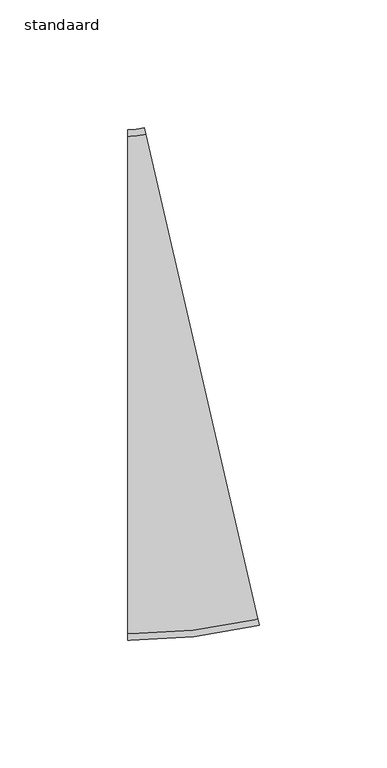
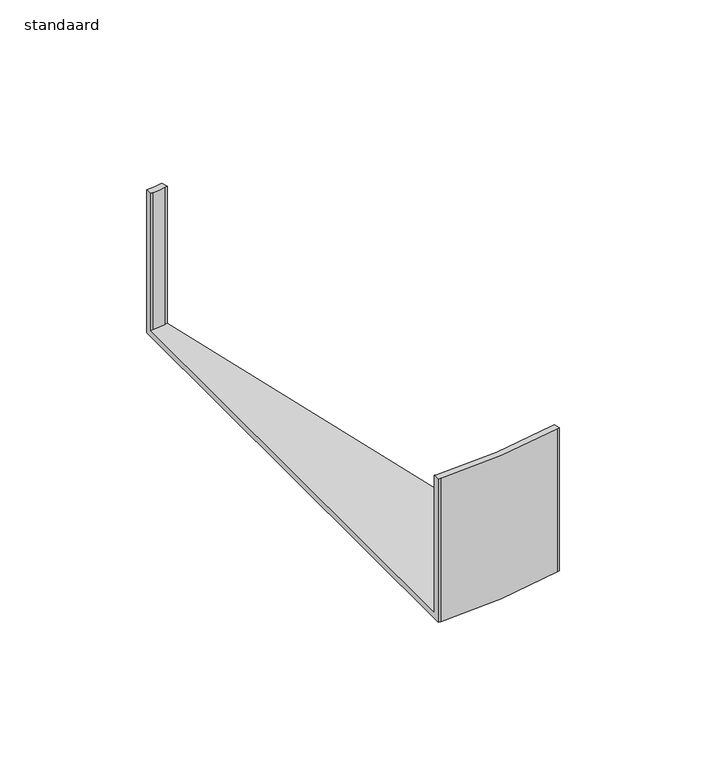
"""IFC4 building model written with IfcOpenShell, lengths in millimetres: cable carrier fitting geometry, AI_Raccord cdc_Coude horizontal rayon court : standaard."""

from ifc_helpers import new_model, si_unit, frame, origin, place, context, project, spatial, polyline, circle_curve, source, transform, mapped, element, save
from ifc_brep_helpers import plane_surface, cylinder_surface, revolved_surface, advanced_brep


def standaard_41c507b0(model_context):
    return source(origin(), model_context, "Body", "AdvancedBrep", [
        advanced_brep(
        [(-14.6719887, -100.0, -30.0), (-14.6719887, -100.0, 30.0), (-14.6719887, -97.46, 30.0), (-14.6719887, -97.46, -27.46), (-14.6719887, 97.46, -27.46), (-14.6719887, 97.46, 30.0), (-14.6719887, 100.0, 30.0), (-14.6719887, 100.0, -30.0), (36.7906118, -94.1366992, -30.0), (-8.1986877, 100.7375242, -30.0), (-8.1986877, 100.7375242, 30.0), (-7.6273236, 98.2626215, 30.0), (-7.6273236, 98.2626215, -27.46), (36.2192477, -91.6617966, -27.46), (36.2192477, -91.6617966, 30.0), (36.7906118, -94.1366992, 30.0), (-13.6719887, -100.0, -30.0), (-13.6719887, -100.0, 30.0), (35.8162407, -94.3616457, 30.0), (35.2448766, -91.8867431, 30.0), (-13.6719887, -97.46, 30.0), (-13.6719887, -97.46, -27.46), (35.2448766, -91.8867431, -27.46), (-8.6016947, 98.037675, -27.46), (-13.6719887, 97.46, -27.46), (-13.6719887, 97.46, 30.0), (-8.6016947, 98.037675, 30.0), (-9.1730588, 100.5125777, 30.0), (-13.6719887, 100.0, 30.0), (-13.6719887, 100.0, -30.0), (-9.1730588, 100.5125777, -30.0), (35.8162407, -94.3616457, -30.0)],
        [
            (0, 1),
            (1, 2),
            (2, 3),
            (3, 4),
            (4, 5),
            (5, 6),
            (6, 7),
            (7, 0),
            (8, 9),
            (9, 10),
            (10, 11),
            (11, 12),
            (12, 13),
            (13, 14),
            (14, 15),
            (15, 8),
            (0, 16),
            (16, 17),
            (17, 1),
            (17, 18, circle_curve(frame((-13.6719887, 120.0, 30.0), z_axis=(0.0, 0.0, 1.0), x_axis=(0.0, -1.0, 0.0)), 220.0)),
            (18, 15),
            (14, 19),
            (19, 20, circle_curve(frame((-13.6719887, 120.0, 30.0), z_axis=(0.0, 0.0, -1.0), x_axis=(0.0, -1.0, 0.0)), 217.46)),
            (20, 2),
            (20, 21),
            (21, 3),
            (21, 22, circle_curve(frame((-13.6719887, 120.0, -27.46), z_axis=(0.0, 0.0, 1.0), x_axis=(0.0, -1.0, 0.0)), 217.46)),
            (22, 13),
            (12, 23),
            (23, 24, circle_curve(frame((-13.6719887, 120.0, -27.46), z_axis=(0.0, 0.0, -1.0), x_axis=(0.0, -1.0, 0.0)), 22.54)),
            (24, 4),
            (24, 25),
            (25, 5),
            (25, 26, circle_curve(frame((-13.6719887, 120.0, 30.0), z_axis=(0.0, 0.0, 1.0), x_axis=(0.0, -1.0, 0.0)), 22.54)),
            (26, 11),
            (10, 27),
            (27, 28, circle_curve(frame((-13.6719887, 120.0, 30.0), z_axis=(0.0, 0.0, -1.0), x_axis=(0.0, -1.0, 0.0)), 20.0)),
            (28, 6),
            (28, 29),
            (29, 7),
            (29, 30, circle_curve(frame((-13.6719887, 120.0, -30.0), z_axis=(0.0, 0.0, 1.0), x_axis=(0.0, -1.0, 0.0)), 20.0)),
            (30, 9),
            (8, 31),
            (31, 16, circle_curve(frame((-13.6719887, 120.0, -30.0), z_axis=(0.0, 0.0, -1.0), x_axis=(0.0, -1.0, 0.0)), 220.0)),
            (31, 18),
            (19, 22),
            (23, 26),
            (27, 30),
        ],
        [
            plane_surface(frame((-14.6719887, 0.0, 0.0), z_axis=(-1.0, -4.910971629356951e-12, 0.0), x_axis=(0.0, 0.0, 1.0))),
            plane_surface(frame((14.2959621, 3.3004125, 0.0), z_axis=(0.974371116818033, 0.22494649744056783, 0.0), x_axis=(0.0, 0.0, 1.0))),
            plane_surface(frame((-14.6719887, -100.0, -30.0), z_axis=(4.906741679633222e-12, -1.0, 0.0), x_axis=(1.0, 4.906741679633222e-12, 0.0))),
            plane_surface(frame((-14.6719887, -100.0, 30.0), z_axis=(0.0, 0.0, 1.0), x_axis=(1.0, 4.906741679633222e-12, 0.0))),
            plane_surface(frame((-14.6719887, -97.46, 30.0), z_axis=(-4.8898218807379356e-12, 1.0, 0.0), x_axis=(1.0, 4.8898218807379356e-12, 0.0))),
            plane_surface(frame((-14.6719887, -97.46, -27.46), z_axis=(0.0, 0.0, 1.0), x_axis=(1.0, 4.906741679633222e-12, 0.0))),
            plane_surface(frame((-14.6719887, 97.46, -27.46), z_axis=(4.906741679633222e-12, -1.0, 0.0), x_axis=(1.0, 4.906741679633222e-12, 0.0))),
            plane_surface(frame((-14.6719887, 97.46, 30.0), z_axis=(0.0, 0.0, 1.0), x_axis=(1.0, 4.906741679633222e-12, 0.0))),
            plane_surface(frame((-14.6719887, 100.0, 30.0), z_axis=(-4.906741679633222e-12, 1.0, 0.0), x_axis=(1.0, 4.906741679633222e-12, 0.0))),
            plane_surface(frame((-14.6719887, 100.0, -30.0), z_axis=(0.0, 0.0, -1.0), x_axis=(1.0, 4.906741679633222e-12, 0.0))),
            cylinder_surface(frame((-13.6719887, 120.0, 0.0), z_axis=(0.0, 0.0, 1.0), x_axis=(0.0, -1.0, 0.0)), 220.0),
            revolved_surface(polyline([(-13.6719887, -97.46000000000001, 30.0), (-13.6719887, -97.46000000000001, -27.46)]), (-13.6719887, 120.0, 0.0), (0.0, 0.0, 1.0)),
            cylinder_surface(frame((-13.6719887, 120.0, 0.0), z_axis=(0.0, 0.0, 1.0), x_axis=(0.0, -1.0, 0.0)), 22.54),
            revolved_surface(polyline([(-13.6719887, 100.0, 30.0), (-13.6719887, 100.0, -30.0)]), (-13.6719887, 120.0, 0.0), (0.0, 0.0, 1.0)),
            plane_surface(frame((35.8162407, -94.3616457, -30.0), z_axis=(0.2249464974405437, -0.9743711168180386, 0.0), x_axis=(0.9743711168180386, 0.2249464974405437, 0.0))),
            plane_surface(frame((35.2448766, -91.8867431, 30.0), z_axis=(-0.22494649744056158, 0.9743711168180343, 0.0), x_axis=(0.9743711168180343, 0.22494649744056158, 0.0))),
            plane_surface(frame((-8.6016947, 98.037675, -27.46), z_axis=(0.22494649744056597, -0.9743711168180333, 0.0), x_axis=(0.9743711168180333, 0.22494649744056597, 0.0))),
            plane_surface(frame((-9.1730588, 100.5125777, 30.0), z_axis=(-0.2249464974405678, 0.9743711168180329, 0.0), x_axis=(0.9743711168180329, 0.2249464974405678, 0.0))),
        ],
        [
            (0, [[1, 2, 3, 4, 5, 6, 7, 8]]),
            (1, [[9, 10, 11, 12, 13, 14, 15, 16]]),
            (2, [[-1, 17, 18, 19]]),
            (3, [[-2, -19, 20, 21, -15, 22, 23, 24]]),
            (4, [[-3, -24, 25, 26]]),
            (5, [[-4, -26, 27, 28, -13, 29, 30, 31]]),
            (6, [[-5, -31, 32, 33]]),
            (7, [[-6, -33, 34, 35, -11, 36, 37, 38]]),
            (8, [[-7, -38, 39, 40]]),
            (9, [[-8, -40, 41, 42, -9, 43, 44, -17]]),
            (10, [[-20, -18, -44, 45]]),
            (11, [[-27, -25, -23, 46]]),
            (12, [[-34, -32, -30, 47]]),
            (13, [[-41, -39, -37, 48]]),
            (14, [[-45, -43, -16, -21]]),
            (15, [[-46, -22, -14, -28]]),
            (16, [[-47, -29, -12, -35]]),
            (17, [[-48, -36, -10, -42]]),
        ],
    ),
    ])


if __name__ == "__main__":
    model = new_model("IFC4")
    model_context = context("Model", 3, world=origin())
    ifc_project = project(units=[si_unit("LENGTHUNIT", "METRE", prefix="MILLI")], contexts=[model_context])
    site = spatial("IfcSite", under=ifc_project)
    building = spatial("IfcBuilding", under=site)
    placement = place(None, origin())
    standaard_shape = standaard_41c507b0(model_context)
    element("IfcCableCarrierFitting", 1, ObjectType="AI_Raccord cdc_Coude horizontal rayon court : standaard", at=placement, inside=building, context=model_context, shape_type="MappedRepresentation", body=[
        mapped(standaard_shape, transform((0.0, 0.0, 0.0), x_axis=(1.0, 0.0, 0.0), y_axis=(0.0, 1.0, 0.0), z_axis=(0.0, 0.0, 1.0))),
    ])
    save(model, "model.ifc")
